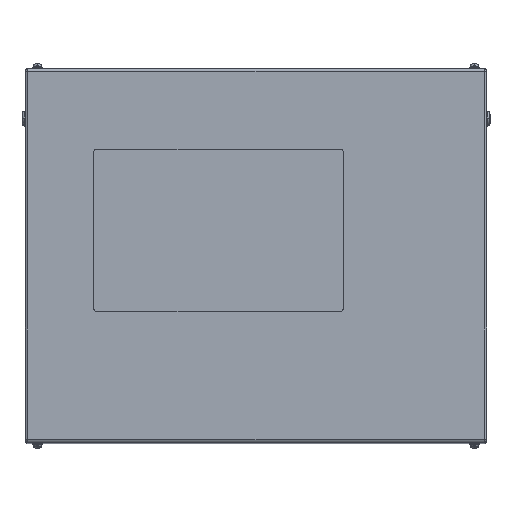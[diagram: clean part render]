
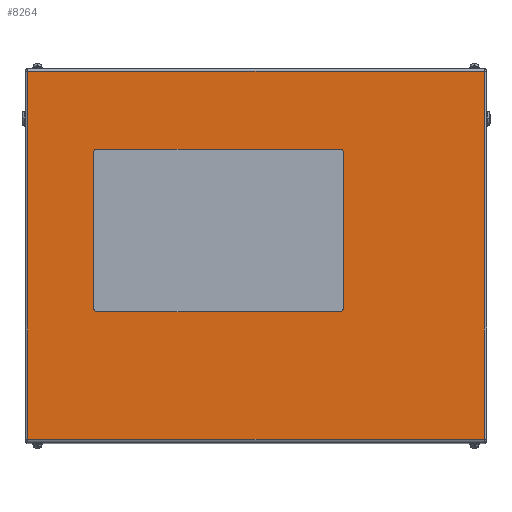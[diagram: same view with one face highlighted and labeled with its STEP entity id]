
A CAD part, top view. The second image highlights one B-rep face of the part: STEP entity #8264.
In plain terms, the highlighted planar face has unit normal (0, 0, 1).
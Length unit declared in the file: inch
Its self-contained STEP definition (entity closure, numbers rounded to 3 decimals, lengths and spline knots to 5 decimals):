
#105 = DIRECTION ( 'NONE',  ( -1., 0., 0. ) ) ;
#522 = EDGE_CURVE ( 'NONE', #2261, #4138, #12600, .T. ) ;
#852 = LINE ( 'NONE', #9233, #19341 ) ;
#1082 = AXIS2_PLACEMENT_3D ( 'NONE', #12979, #18037, #9943 ) ;
#1168 = ORIENTED_EDGE ( 'NONE', *, *, #6927, .T. ) ;
#1291 = EDGE_CURVE ( 'NONE', #4138, #13921, #17686, .T. ) ;
#1465 = DIRECTION ( 'NONE',  ( -1., 0., 0. ) ) ;
#1699 = DIRECTION ( 'NONE',  ( -1., 0., 0. ) ) ;
#1920 = CARTESIAN_POINT ( 'NONE',  ( -12.75, 8.5, 30. ) ) ;
#2134 = DIRECTION ( 'NONE',  ( 1., 0., 0. ) ) ;
#2172 = VECTOR ( 'NONE', #10876, 39.37008 ) ;
#2261 = VERTEX_POINT ( 'NONE', #2963 ) ;
#2306 = DIRECTION ( 'NONE',  ( 1., 0., 0. ) ) ;
#2744 = VECTOR ( 'NONE', #11617, 39.37008 ) ;
#2747 = ORIENTED_EDGE ( 'NONE', *, *, #14050, .F. ) ;
#2829 = VERTEX_POINT ( 'NONE', #12261 ) ;
#2955 = AXIS2_PLACEMENT_3D ( 'NONE', #18761, #5862, #2306 ) ;
#2963 = CARTESIAN_POINT ( 'NONE',  ( 7., -4.25, 30. ) ) ;
#3009 = EDGE_CURVE ( 'NONE', #7859, #20527, #9750, .T. ) ;
#3016 = ORIENTED_EDGE ( 'NONE', *, *, #10138, .F. ) ;
#3565 = DIRECTION ( 'NONE',  ( 0., -1., 0. ) ) ;
#4138 = VERTEX_POINT ( 'NONE', #21103 ) ;
#4341 = DIRECTION ( 'NONE',  ( 0., 0., 1. ) ) ;
#4396 = DIRECTION ( 'NONE',  ( 0., 0., -1. ) ) ;
#4413 = VECTOR ( 'NONE', #1465, 39.37008 ) ;
#4416 = CARTESIAN_POINT ( 'NONE',  ( 7., 8.25, 30. ) ) ;
#4546 = VECTOR ( 'NONE', #7826, 39.37008 ) ;
#4594 = EDGE_CURVE ( 'NONE', #13921, #7068, #10090, .T. ) ;
#4626 = EDGE_CURVE ( 'NONE', #19729, #17703, #16854, .T. ) ;
#4644 = CARTESIAN_POINT ( 'NONE',  ( -13., -4.25, 30. ) ) ;
#4967 = VECTOR ( 'NONE', #2134, 39.37008 ) ;
#5762 = ORIENTED_EDGE ( 'NONE', *, *, #19485, .F. ) ;
#5862 = DIRECTION ( 'NONE',  ( 0., 0., 1. ) ) ;
#5947 = ORIENTED_EDGE ( 'NONE', *, *, #522, .F. ) ;
#6059 = CARTESIAN_POINT ( 'NONE',  ( -18.3, 14.734, 30. ) ) ;
#6369 = CARTESIAN_POINT ( 'NONE',  ( 6.75, 8.5, 30. ) ) ;
#6442 = CIRCLE ( 'NONE', #2955, 0.25 ) ;
#6704 = ORIENTED_EDGE ( 'NONE', *, *, #4626, .T. ) ;
#6927 = EDGE_CURVE ( 'NONE', #17703, #7859, #9506, .T. ) ;
#6947 = DIRECTION ( 'NONE',  ( 1., 0., 0. ) ) ;
#7004 = VECTOR ( 'NONE', #3565, 39.37008 ) ;
#7068 = VERTEX_POINT ( 'NONE', #18217 ) ;
#7092 = VERTEX_POINT ( 'NONE', #17032 ) ;
#7313 = CARTESIAN_POINT ( 'NONE',  ( -12.75, -4.5, 30. ) ) ;
#7585 = ORIENTED_EDGE ( 'NONE', *, *, #20669, .F. ) ;
#7628 = PLANE ( 'NONE',  #10736 ) ;
#7826 = DIRECTION ( 'NONE',  ( 0., 1., 0. ) ) ;
#7859 = VERTEX_POINT ( 'NONE', #20066 ) ;
#8264 = ADVANCED_FACE ( 'NONE', ( #18807, #9226 ), #7628, .F. ) ;
#8606 = LINE ( 'NONE', #18281, #7004 ) ;
#8893 = CARTESIAN_POINT ( 'NONE',  ( 18.5, 15., 30. ) ) ;
#9226 = FACE_OUTER_BOUND ( 'NONE', #14789, .T. ) ;
#9233 = CARTESIAN_POINT ( 'NONE',  ( -18.3, 15., 30. ) ) ;
#9303 = CARTESIAN_POINT ( 'NONE',  ( -18.3, -14.734, 30. ) ) ;
#9506 = LINE ( 'NONE', #11472, #4546 ) ;
#9750 = LINE ( 'NONE', #16306, #4413 ) ;
#9943 = DIRECTION ( 'NONE',  ( 1., 0., 0. ) ) ;
#10090 = LINE ( 'NONE', #1920, #10296 ) ;
#10138 = EDGE_CURVE ( 'NONE', #14537, #14500, #6442, .T. ) ;
#10160 = DIRECTION ( 'NONE',  ( 0., 0., 1. ) ) ;
#10192 = ORIENTED_EDGE ( 'NONE', *, *, #1291, .F. ) ;
#10296 = VECTOR ( 'NONE', #1699, 39.37008 ) ;
#10363 = EDGE_LOOP ( 'NONE', ( #2747, #3016, #5762, #13377, #20523, #10192, #5947, #7585 ) ) ;
#10736 = AXIS2_PLACEMENT_3D ( 'NONE', #8893, #4396, #13983 ) ;
#10876 = DIRECTION ( 'NONE',  ( 0., 1., 0. ) ) ;
#11472 = CARTESIAN_POINT ( 'NONE',  ( 18.3, 15., 30. ) ) ;
#11617 = DIRECTION ( 'NONE',  ( 1., 0., 0. ) ) ;
#12261 = CARTESIAN_POINT ( 'NONE',  ( 6.75, -4.5, 30. ) ) ;
#12600 = LINE ( 'NONE', #4416, #2172 ) ;
#12979 = CARTESIAN_POINT ( 'NONE',  ( 6.75, -4.25, 30. ) ) ;
#13222 = CIRCLE ( 'NONE', #15951, 0.25 ) ;
#13225 = AXIS2_PLACEMENT_3D ( 'NONE', #17678, #4341, #105 ) ;
#13377 = ORIENTED_EDGE ( 'NONE', *, *, #20017, .F. ) ;
#13380 = ORIENTED_EDGE ( 'NONE', *, *, #14875, .T. ) ;
#13921 = VERTEX_POINT ( 'NONE', #6369 ) ;
#13956 = CARTESIAN_POINT ( 'NONE',  ( 18.3, -14.734, 30. ) ) ;
#13983 = DIRECTION ( 'NONE',  ( -1., 0., 0. ) ) ;
#14050 = EDGE_CURVE ( 'NONE', #14500, #2829, #15282, .T. ) ;
#14149 = CIRCLE ( 'NONE', #1082, 0.25 ) ;
#14500 = VERTEX_POINT ( 'NONE', #15717 ) ;
#14537 = VERTEX_POINT ( 'NONE', #4644 ) ;
#14789 = EDGE_LOOP ( 'NONE', ( #13380, #6704, #1168, #14871 ) ) ;
#14844 = CARTESIAN_POINT ( 'NONE',  ( 18.3, -14.734, 30. ) ) ;
#14871 = ORIENTED_EDGE ( 'NONE', *, *, #3009, .T. ) ;
#14875 = EDGE_CURVE ( 'NONE', #20527, #19729, #852, .T. ) ;
#15028 = CARTESIAN_POINT ( 'NONE',  ( -12.75, 8.25, 30. ) ) ;
#15282 = LINE ( 'NONE', #7313, #4967 ) ;
#15717 = CARTESIAN_POINT ( 'NONE',  ( -12.75, -4.5, 30. ) ) ;
#15789 = DIRECTION ( 'NONE',  ( 0., -1., 0. ) ) ;
#15951 = AXIS2_PLACEMENT_3D ( 'NONE', #15028, #10160, #6947 ) ;
#16306 = CARTESIAN_POINT ( 'NONE',  ( 18.5, 14.734, 30. ) ) ;
#16854 = LINE ( 'NONE', #14844, #2744 ) ;
#17032 = CARTESIAN_POINT ( 'NONE',  ( -13., 8.25, 30. ) ) ;
#17678 = CARTESIAN_POINT ( 'NONE',  ( 6.75, 8.25, 30. ) ) ;
#17686 = CIRCLE ( 'NONE', #13225, 0.25 ) ;
#17703 = VERTEX_POINT ( 'NONE', #13956 ) ;
#18037 = DIRECTION ( 'NONE',  ( 0., 0., 1. ) ) ;
#18217 = CARTESIAN_POINT ( 'NONE',  ( -12.75, 8.5, 30. ) ) ;
#18281 = CARTESIAN_POINT ( 'NONE',  ( -13., 8.25, 30. ) ) ;
#18761 = CARTESIAN_POINT ( 'NONE',  ( -12.75, -4.25, 30. ) ) ;
#18807 = FACE_BOUND ( 'NONE', #10363, .T. ) ;
#19341 = VECTOR ( 'NONE', #15789, 39.37008 ) ;
#19485 = EDGE_CURVE ( 'NONE', #7092, #14537, #8606, .T. ) ;
#19729 = VERTEX_POINT ( 'NONE', #9303 ) ;
#20017 = EDGE_CURVE ( 'NONE', #7068, #7092, #13222, .T. ) ;
#20066 = CARTESIAN_POINT ( 'NONE',  ( 18.3, 14.734, 30. ) ) ;
#20523 = ORIENTED_EDGE ( 'NONE', *, *, #4594, .F. ) ;
#20527 = VERTEX_POINT ( 'NONE', #6059 ) ;
#20669 = EDGE_CURVE ( 'NONE', #2829, #2261, #14149, .T. ) ;
#21103 = CARTESIAN_POINT ( 'NONE',  ( 7., 8.25, 30. ) ) ;
